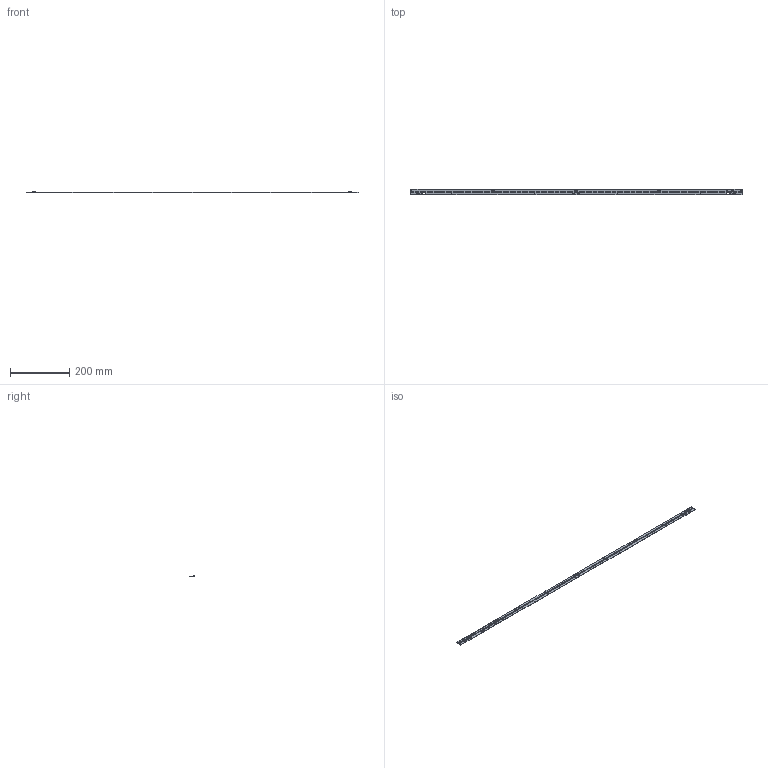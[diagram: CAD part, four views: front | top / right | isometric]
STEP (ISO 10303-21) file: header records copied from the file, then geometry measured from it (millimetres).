
FILE_DESCRIPTION(('Creo Elements/Direct Modeling STEP Export'),'2;1');
FILE_NAME('3D-Model__WU-M-703-STC.stp','2023-04-05T11:24:42',(''),(''),'PTC Creo Elements/Direct Modeling STEP processor for AP214 (Solid Model)','PTC Creo Elements/Direct Modeling 19.0E 27-Jun-2016 (C) Parametric Technology GmbH','');
FILE_SCHEMA(('AUTOMOTIVE_DESIGN { 1 0 10303 214 1 1 1 1 }'));
Length unit declared in the file: millimetre
Products named in the file (266): P1_1.PRT; P1.PRT; CON0101_1-55870.ASM; CON0101-111040.PRT; CON0101-111040.PRT.1; CON0101-111370.ASM; LED01.PRT; LED1.ASM; PLOCA_WU-M-703-1253840_PRT.PRT; PLOCA_WU-M-703-1255670_ASM.ASM; PLOCA_WU-M-703_1-1192070_PRT.PRT; PLOCA_WU-M-703_1-1192490_ASM.ASM; PLOCA_WU-M-703_10-1188120_PRT.PRT; PLOCA_WU-M-703_10-1188660_ASM.ASM; PLOCA_WU-M-703_100-1179240_PRT.PRT; PLOCA_WU-M-703_100-1179810_ASM.ASM; PLOCA_WU-M-703_101-1169240_PRT.PRT; PLOCA_WU-M-703_101-1169710_ASM.ASM; PLOCA_WU-M-703_102-1163430_PRT.PRT; PLOCA_WU-M-703_102-1163890_ASM.ASM; PLOCA_WU-M-703_103-1157860_PRT.PRT; PLOCA_WU-M-703_103-1158400_ASM.ASM; PLOCA_WU-M-703_104-1149060_PRT.PRT; PLOCA_WU-M-703_104-1149550_ASM.ASM; PLOCA_WU-M-703_105-1142200_PRT.PRT; PLOCA_WU-M-703_105-1142790_ASM.ASM; PLOCA_WU-M-703_106-1131270_PRT.PRT; PLOCA_WU-M-703_106-1131870_ASM.ASM; PLOCA_WU-M-703_107-1119890_PRT.PRT; PLOCA_WU-M-703_107-1120520_ASM.ASM; PLOCA_WU-M-703_108-1107360_PRT.PRT; PLOCA_WU-M-703_108-1107940_ASM.ASM; PLOCA_WU-M-703_109-1096780_PRT.PRT; PLOCA_WU-M-703_109-1097410_ASM.ASM; PLOCA_WU-M-703_11-1084290_PRT.PRT; PLOCA_WU-M-703_11-1084830_ASM.ASM; PLOCA_WU-M-703_110-1075590_PRT.PRT; PLOCA_WU-M-703_110-1075980_ASM.ASM; PLOCA_WU-M-703_111-1072800_PRT.PRT; PLOCA_WU-M-703_111-1073400_ASM.ASM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
Assembly tree (404 placements, depth 4):
  3D-MODEL__WU-M-703-STC.stp
    3D-MODEL_WU-M-703-STC_STP.ASM
      PLOCA_WU-M-703_99-12610_ASM.ASM
        PLOCA_WU-M-703_99-11980_PRT.PRT
      PLOCA_WU-M-703_98-18940_ASM.ASM
        PLOCA_WU-M-703_98-18460_PRT.PRT
      PLOCA_WU-M-703_97-28240_ASM.ASM
        PLOCA_WU-M-703_97-27690_PRT.PRT
      PLOCA_WU-M-703_96-30820_ASM.ASM
        PLOCA_WU-M-703_96-30430_PRT.PRT
      PLOCA_WU-M-703_95-38010_ASM.ASM
        PLOCA_WU-M-703_95-37510_PRT.PRT
      PLOCA_WU-M-703_94-56950_ASM.ASM
        PLOCA_WU-M-703_94-56160_PRT.PRT
      PLOCA_WU-M-703_93-67030_ASM.ASM
        PLOCA_WU-M-703_93-66460_PRT.PRT
      PLOCA_WU-M-703_92-72150_ASM.ASM
        PLOCA_WU-M-703_92-71700_PRT.PRT
      PLOCA_WU-M-703_91-77640_ASM.ASM
        PLOCA_WU-M-703_91-77180_PRT.PRT
      PLOCA_WU-M-703_90-84790_ASM.ASM
        PLOCA_WU-M-703_90-84290_PRT.PRT
      PLOCA_WU-M-703_9-93190_ASM.ASM
        PLOCA_WU-M-703_9-92660_PRT.PRT
      PLOCA_WU-M-703_89-104150_ASM.ASM
        PLOCA_WU-M-703_89-103560_PRT.PRT
      PLOCA_WU-M-703_88-119230_ASM.ASM
        PLOCA_WU-M-703_88-118540_PRT.PRT
      PLOCA_WU-M-703_87-128080_ASM.ASM
        PLOCA_WU-M-703_87-127540_PRT.PRT
      PLOCA_WU-M-703_86-136930_ASM.ASM
        PLOCA_WU-M-703_86-136390_PRT.PRT
      PLOCA_WU-M-703_85-149590_ASM.ASM
        PLOCA_WU-M-703_85-148960_PRT.PRT
      PLOCA_WU-M-703_84-152170_ASM.ASM
        PLOCA_WU-M-703_84-151780_PRT.PRT
      PLOCA_WU-M-703_83-167250_ASM.ASM
        PLOCA_WU-M-703_83-166560_PRT.PRT
      PLOCA_WU-M-703_82-179870_ASM.ASM
        PLOCA_WU-M-703_82-179240_PRT.PRT
      PLOCA_WU-M-703_81-192450_ASM.ASM
        PLOCA_WU-M-703_81-191820_PRT.PRT
      PLOCA_WU-M-703_80-203800_ASM.ASM
        PLOCA_WU-M-703_80-203200_PRT.PRT
      PLOCA_WU-M-703_8-216420_ASM.ASM
        PLOCA_WU-M-703_8-215790_PRT.PRT
      PLOCA_WU-M-703_79-225270_ASM.ASM
        PLOCA_WU-M-703_79-224730_PRT.PRT
      PLOCA_WU-M-703_78-234920_ASM.ASM
        PLOCA_WU-M-703_78-234360_PRT.PRT
      PLOCA_WU-M-703_77-242070_ASM.ASM
        PLOCA_WU-M-703_77-241570_PRT.PRT
      PLOCA_WU-M-703_76-250080_ASM.ASM
        PLOCA_WU-M-703_76-249560_PRT.PRT
      PLOCA_WU-M-703_75-255180_ASM.ASM
        PLOCA_WU-M-703_75-254730_PRT.PRT
      PLOCA_WU-M-703_74-261000_ASM.ASM
        PLOCA_WU-M-703_74-260530_PRT.PRT
      PLOCA_WU-M-703_73-276250_ASM.ASM
        PLOCA_WU-M-703_73-275550_PRT.PRT
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Bounding box: 1119 x 20 x 3.7 mm (x, y, z)
Volume: 22923.2 mm3; surface area: 50895.5 mm2
Topology: 270 solids, 270 shells, 14070 faces, 38786 edges, 25666 vertices
Faces by surface type: plane 10907, cylinder 3163
Entity records: 140497 total; most frequent: CARTESIAN_POINT 19434, DIRECTION 18818, ORIENTED_EDGE 18636, EDGE_CURVE 9318, VECTOR 7406, LINE 7406, VERTEX_POINT 6206, AXIS2_PLACEMENT_3D 5706
